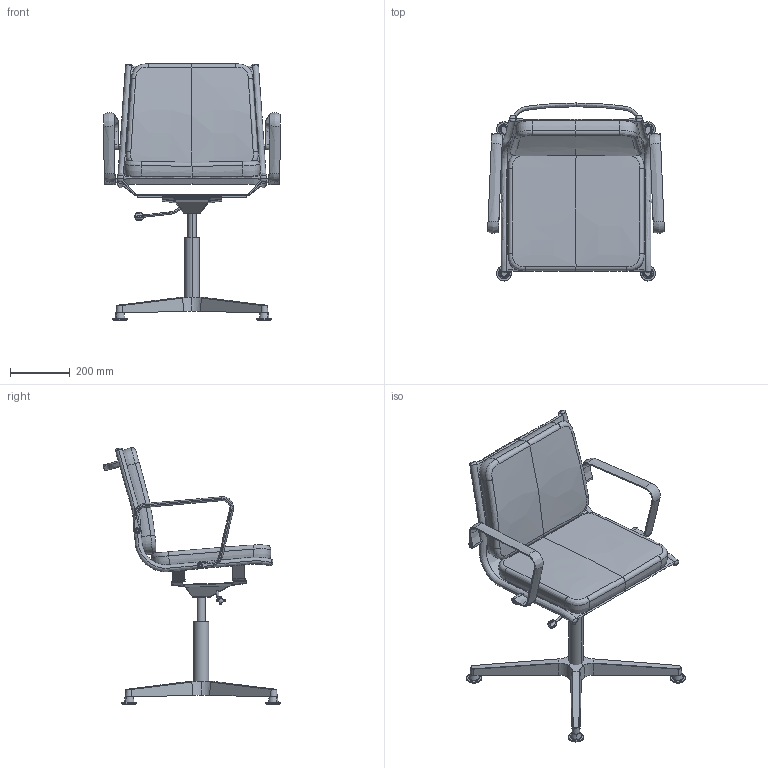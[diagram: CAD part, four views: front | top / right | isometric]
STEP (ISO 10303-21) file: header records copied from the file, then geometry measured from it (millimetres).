
FILE_DESCRIPTION(/* description */ (''),/* implementation_level */ '2;1');
FILE_NAME(/* name */ 'FLY703~1',/* time_stamp */ '2017-10-19T15:05:32+02:00',/* author */ (''),/* organization */ (''),/* preprocessor_version */ 'ST-DEVELOPER v15',/* originating_system */ '',/* authorisation */ '');
FILE_SCHEMA (('CONFIG_CONTROL_DESIGN'));
Length unit declared in the file: millimetre
Products named in the file (1): Document
Bounding box: 589.59 x 592.29 x 855.08 mm (x, y, z)
Volume: 1586375.5 mm3; surface area: 1896725.3 mm2
Topology: 10 solids, 30 shells, 405 faces, 979 edges, 601 vertices
Faces by surface type: bspline 314, plane 91
Entity records: 20782 total; most frequent: CARTESIAN_POINT 15175, ORIENTED_EDGE 1818, EDGE_CURVE 960, VERTEX_POINT 595, B_SPLINE_CURVE_WITH_KNOTS 481, EDGE_LOOP 417, ADVANCED_FACE 405, FACE_OUTER_BOUND 405
